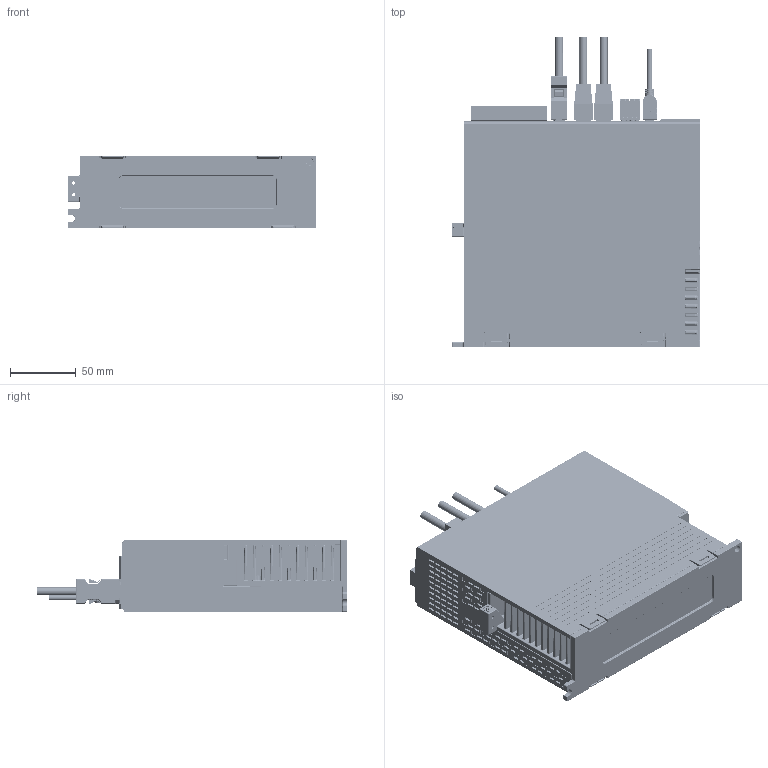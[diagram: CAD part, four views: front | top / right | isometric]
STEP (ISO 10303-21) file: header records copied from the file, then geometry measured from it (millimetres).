
FILE_DESCRIPTION(/* description */ (''),/* implementation_level */ '2;1');
FILE_NAME(/* name */ 'DS5C2-20P7-官网图-240127.stp',/* time_stamp */ '2024-01-27T10:09:12+08:00',/* author */ (''),/* organization */ (''),/* preprocessor_version */ 'ST-DEVELOPER v16.7',/* originating_system */ 'SIEMENS PLM Software NX 12.0',/* authorisation */ '');
FILE_SCHEMA (('AUTOMOTIVE_DESIGN { 1 0 10303 214 3 1 1 1 }'));
Products named in the file (1): DS5C2-20P7-官网图-240128
Bounding box: 189.3 x 236.4 x 55 mm (x, y, z)
Volume: 1673202.6 mm3; surface area: 163846.4 mm2
Topology: 8 solids, 12 shells, 25603 faces, 70424 edges, 46429 vertices
Faces by surface type: plane 16411, bspline 6794, cylinder 1633, extrusion 379, sphere 232, torus 102, cone 52
Full cylindrical faces by diameter (mm): 0.8 x4, 2.2 x4, 3.1 x4, 4 x1, 6 x4, 6.2 x1
Entity records: 997025 total; most frequent: CARTESIAN_POINT 262605, ORIENTED_EDGE 140272, DIRECTION 95228, EDGE_CURVE 70136, VECTOR 52084, LINE 51705, VERTEX_POINT 46409, EDGE_LOOP 27575
